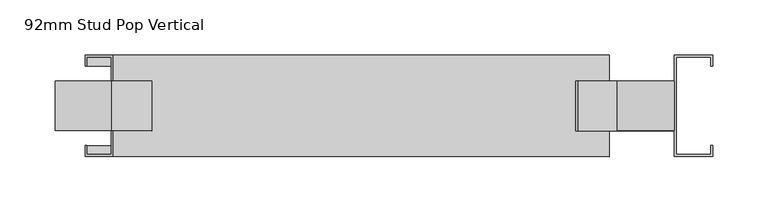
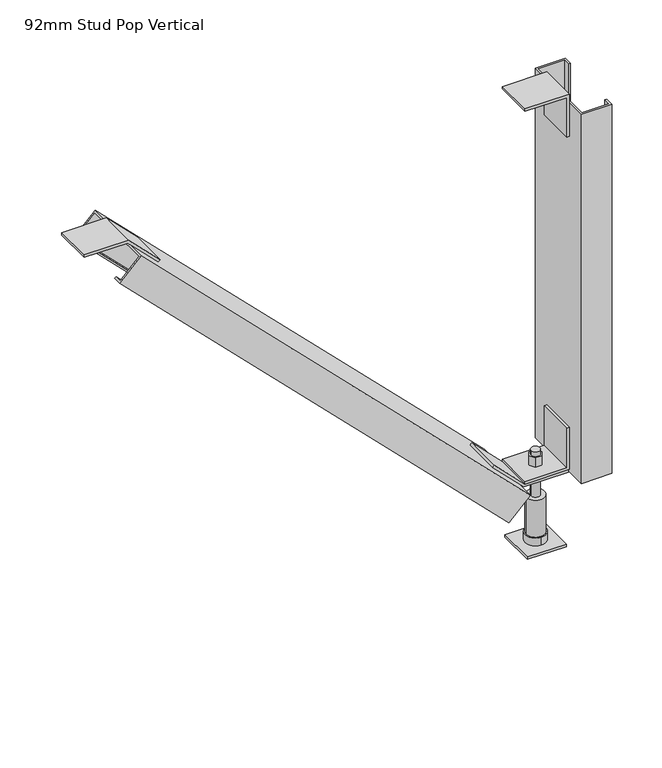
"""IFC4 building model written with IfcOpenShell, lengths in millimetres: beam geometry, Vertibrace Standard Brace : 92mm Stud Pop Vertical."""

from ifc_helpers import new_model, si_unit, frame, origin, origin_with_axes, place, context, project, spatial, polyline, circle_curve, outline, extrude, faceted_brep, source, transform, mapped, element, save
from ifc_brep_helpers import plane_surface, cylinder_surface, advanced_brep


def beam_92mm_stud_pop_vertical_78648807(model_context):
    return source(origin(), model_context, "Body", "SolidModel", [
        extrude(outline(polyline([(547.0013294, 23.235654), (498.7734408, 23.235654), (498.7734408, 26.2343246), (550.0, 26.2343246), (550.0, -24.9922346), (547.0013294, -24.9922346), (547.0013294, 23.235654)])), frame((0.0, -22.5, 0.0), z_axis=(0.0, 1.0, 0.0), x_axis=(0.0, 0.0, 1.0)), (0.0, 0.0, 1.0), 45.0),
        extrude(outline(polyline([(547.0013294, -483.535654), (511.6569723, -448.1912969), (513.7773526, -446.0709166), (550.0, -482.293564), (550.0, -533.5201232), (547.0013294, -533.5201232), (547.0013294, -483.535654)])), frame((0.0, -22.5, 0.0), z_axis=(0.0, 1.0, 0.0), x_axis=(0.0, 0.0, 1.0)), (0.0, 0.0, 1.0), 45.0),
        extrude(outline(polyline([(95.6986706, 23.235654), (95.6986706, -24.9922346), (92.7, -24.9922346), (92.7, 26.2343246), (143.9265592, 26.2343246), (143.9265592, 23.235654), (95.6986706, 23.235654)])), frame((0.0, -22.5, 0.0), z_axis=(0.0, 1.0, 0.0), x_axis=(0.0, 0.0, 1.0)), (0.0, 0.0, 1.0), 45.0),
        extrude(outline(polyline([(92.6986706, -24.9922346), (128.0430277, -60.3365917), (125.9226474, -62.456972), (89.7, -26.2343246), (89.7, 24.9922346), (92.6986706, 24.9922346), (92.6986706, -24.9922346)])), frame((0.0, -22.5, 0.0), z_axis=(0.0, 1.0, 0.0), x_axis=(0.0, 0.0, 1.0)), (0.0, 0.0, 1.0), 45.0),
        extrude(outline(polyline([(22.5, 22.5), (22.5, -22.5), (-22.5, -22.5), (-22.5, 22.5), (22.5, 22.5)])), origin_with_axes(), (0.0, 0.0, 1.0), 3.0),
        advanced_brep(
        [(-5.0, 0.0, 0.0), (5.0, 0.0, 0.0), (-5.0, 0.0, 113.0), (5.0, 0.0, 113.0), (5.0, 0.0, 3.0), (-5.0, 0.0, 3.0), (-5.0, 0.0, 107.4), (5.0, 0.0, 107.4), (-5.0, 0.0, 58.0), (5.0, 0.0, 58.0), (5.0, 0.0, 83.0), (-5.0, 0.0, 83.0), (5.0, 0.0, 95.7), (-5.0, 0.0, 95.7), (-5.0, 0.0, 89.7), (5.0, 0.0, 89.7), (-10.5, 0.0, 58.0), (10.5, 0.0, 58.0), (-10.5, 0.0, 13.0), (10.5, 0.0, 13.0), (0.0, -12.0, 13.0), (0.0, 12.0, 13.0), (3.75, 6.4951905, 107.4), (-3.75, 6.4951905, 107.4), (-7.5, 0.0, 107.4), (-3.75, -6.4951905, 107.4), (3.75, -6.4951905, 107.4), (7.5, 0.0, 107.4), (3.75, 6.4951905, 95.7), (7.5, 0.0, 95.7), (3.75, -6.4951905, 95.7), (-3.75, -6.4951905, 95.7), (-7.5, 0.0, 95.7), (-3.75, 6.4951905, 95.7), (-10.9696551, 0.0, 89.7), (-5.4848276, -9.5, 89.7), (5.4848276, -9.5, 89.7), (10.9696551, 0.0, 89.7), (5.4848276, 9.5, 89.7), (-5.4848276, 9.5, 89.7), (-10.9696551, 0.0, 83.0), (-5.4848276, 9.5, 83.0), (5.4848276, 9.5, 83.0), (10.9696551, 0.0, 83.0), (5.4848276, -9.5, 83.0), (-5.4848276, -9.5, 83.0), (0.0, -12.0, 3.0), (0.0, 12.0, 3.0)],
        [
            (0, 1, circle_curve(frame((0.0, 0.0, 0.0), z_axis=(0.0, 0.0, -1.0), x_axis=(1.0, 0.0, 0.0)), 5.0)),
            (1, 0, circle_curve(frame((0.0, 0.0, 0.0), z_axis=(0.0, 0.0, -1.0), x_axis=(1.0, 0.0, 0.0)), 5.0)),
            (2, 3, circle_curve(frame((0.0, 0.0, 113.0), z_axis=(0.0, 0.0, 1.0), x_axis=(1.0, 0.0, 0.0)), 5.0)),
            (3, 2, circle_curve(frame((0.0, 0.0, 113.0), z_axis=(0.0, 0.0, 1.0), x_axis=(1.0, 0.0, 0.0)), 5.0)),
            (1, 4),
            (4, 5, circle_curve(frame((0.0, 0.0, 3.0), z_axis=(0.0, 0.0, -1.0), x_axis=(1.0, 0.0, 0.0)), 5.0)),
            (5, 0),
            (2, 6),
            (6, 7, circle_curve(frame((0.0, 0.0, 107.4), z_axis=(0.0, 0.0, 1.0), x_axis=(1.0, 0.0, 0.0)), 5.0)),
            (7, 3),
            (8, 9, circle_curve(frame((0.0, 0.0, 58.0), z_axis=(0.0, 0.0, 1.0), x_axis=(1.0, 0.0, 0.0)), 5.0)),
            (9, 10),
            (10, 11, circle_curve(frame((0.0, 0.0, 83.0), z_axis=(0.0, 0.0, -1.0), x_axis=(1.0, 0.0, 0.0)), 5.0)),
            (11, 8),
            (12, 13, circle_curve(frame((0.0, 0.0, 95.7), z_axis=(0.0, 0.0, -1.0), x_axis=(1.0, 0.0, 0.0)), 5.0)),
            (13, 14),
            (14, 15, circle_curve(frame((0.0, 0.0, 89.7), z_axis=(0.0, 0.0, 1.0), x_axis=(1.0, 0.0, 0.0)), 5.0)),
            (15, 12),
            (5, 4, circle_curve(frame((0.0, 0.0, 3.0), z_axis=(0.0, 0.0, -1.0), x_axis=(1.0, 0.0, 0.0)), 5.0)),
            (7, 6, circle_curve(frame((0.0, 0.0, 107.4), z_axis=(0.0, 0.0, 1.0), x_axis=(1.0, 0.0, 0.0)), 5.0)),
            (9, 8, circle_curve(frame((0.0, 0.0, 58.0), z_axis=(0.0, 0.0, 1.0), x_axis=(1.0, 0.0, 0.0)), 5.0)),
            (11, 10, circle_curve(frame((0.0, 0.0, 83.0), z_axis=(0.0, 0.0, -1.0), x_axis=(1.0, 0.0, 0.0)), 5.0)),
            (13, 12, circle_curve(frame((0.0, 0.0, 95.7), z_axis=(0.0, 0.0, -1.0), x_axis=(1.0, 0.0, 0.0)), 5.0)),
            (15, 14, circle_curve(frame((0.0, 0.0, 89.7), z_axis=(0.0, 0.0, 1.0), x_axis=(1.0, 0.0, 0.0)), 5.0)),
            (16, 17, circle_curve(frame((0.0, 0.0, 58.0), z_axis=(0.0, 0.0, 1.0), x_axis=(1.0, 0.0, 0.0)), 10.5)),
            (17, 16, circle_curve(frame((0.0, 0.0, 58.0), z_axis=(0.0, 0.0, 1.0), x_axis=(1.0, 0.0, 0.0)), 10.5)),
            (16, 18),
            (18, 19, circle_curve(frame((0.0, 0.0, 13.0), z_axis=(0.0, 0.0, 1.0), x_axis=(1.0, 0.0, 0.0)), 10.5)),
            (19, 17),
            (19, 18, circle_curve(frame((0.0, 0.0, 13.0), z_axis=(0.0, 0.0, 1.0), x_axis=(1.0, 0.0, 0.0)), 10.5)),
            (20, 21, circle_curve(frame((0.0, 0.0, 13.0), z_axis=(0.0, 0.0, 1.0), x_axis=(0.0, 1.0, 0.0)), 12.0)),
            (21, 20, circle_curve(frame((0.0, 0.0, 13.0), z_axis=(0.0, 0.0, 1.0), x_axis=(0.0, 1.0, 0.0)), 12.0)),
            (22, 23),
            (23, 24),
            (24, 25),
            (25, 26),
            (26, 27),
            (27, 22),
            (28, 29),
            (29, 30),
            (30, 31),
            (31, 32),
            (32, 33),
            (33, 28),
            (22, 28),
            (33, 23),
            (32, 24),
            (31, 25),
            (30, 26),
            (29, 27),
            (34, 35),
            (35, 36),
            (36, 37),
            (37, 38),
            (38, 39),
            (39, 34),
            (40, 41),
            (41, 42),
            (42, 43),
            (43, 44),
            (44, 45),
            (45, 40),
            (34, 40),
            (45, 35),
            (44, 36),
            (43, 37),
            (42, 38),
            (41, 39),
            (46, 47, circle_curve(frame((0.0, 0.0, 3.0), z_axis=(0.0, 0.0, -1.0), x_axis=(0.0, 1.0, 0.0)), 12.0)),
            (47, 46, circle_curve(frame((0.0, 0.0, 3.0), z_axis=(0.0, 0.0, -1.0), x_axis=(0.0, 1.0, 0.0)), 12.0)),
            (47, 21),
            (20, 46),
        ],
        [
            plane_surface(frame((5.0, 0.0, 0.0), z_axis=(0.0, 0.0, -1.0), x_axis=(0.0, -1.0, 0.0))),
            plane_surface(frame((5.0, 0.0, 113.0), z_axis=(0.0, 0.0, 1.0), x_axis=(0.0, 1.0, 0.0))),
            cylinder_surface(origin_with_axes(), 5.0),
            plane_surface(frame((10.5, 0.0, 58.0), z_axis=(0.0, 0.0, 1.0), x_axis=(0.0, 1.0, 0.0))),
            cylinder_surface(frame((0.0, 0.0, 13.0), z_axis=(0.0, 0.0, 1.0), x_axis=(1.0, 0.0, 0.0)), 10.5),
            plane_surface(frame((0.0, 12.0, 13.0), z_axis=(0.0, 0.0, 1.0), x_axis=(-1.0, 0.0, 0.0))),
            plane_surface(frame((3.75, 6.4951905, 107.4), z_axis=(0.0, 0.0, 1.0), x_axis=(-1.0, 0.0, 0.0))),
            plane_surface(frame((3.75, 6.4951905, 95.7), z_axis=(0.0, 0.0, -1.0), x_axis=(1.0, 0.0, 0.0))),
            plane_surface(frame((3.75, 6.4951905, 107.4), z_axis=(0.0, 1.0, 0.0), x_axis=(0.0, 0.0, -1.0))),
            plane_surface(frame((-3.75, 6.4951905, 107.4), z_axis=(-0.866025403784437, 0.5000000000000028, 0.0), x_axis=(0.0, 0.0, -1.0))),
            plane_surface(frame((-7.5, 0.0, 107.4), z_axis=(-0.8660254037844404, -0.4999999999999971, 0.0), x_axis=(0.0, 0.0, -1.0))),
            plane_surface(frame((-3.75, -6.4951905, 107.4), z_axis=(0.0, -1.0, 0.0), x_axis=(0.0, 0.0, -1.0))),
            plane_surface(frame((3.75, -6.4951905, 107.4), z_axis=(0.8660254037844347, -0.500000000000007, 0.0), x_axis=(0.0, 0.0, -1.0))),
            plane_surface(frame((7.5, 0.0, 107.4), z_axis=(0.8660254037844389, 0.49999999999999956, 0.0), x_axis=(0.0, 0.0, -1.0))),
            plane_surface(frame((-10.9696551, 0.0, 89.7), z_axis=(0.0, 0.0, 1.0000000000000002), x_axis=(0.4999999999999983, -0.8660254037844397, 0.0))),
            plane_surface(frame((-10.9696551, 0.0, 83.0), z_axis=(0.0, 0.0, -1.0000000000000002), x_axis=(-0.4999999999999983, 0.8660254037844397, 0.0))),
            plane_surface(frame((-10.9696551, 0.0, 89.7), z_axis=(-0.8660254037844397, -0.4999999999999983, 0.0), x_axis=(0.0, 0.0, -1.0))),
            plane_surface(frame((-5.4848276, -9.5, 89.7), z_axis=(0.0, -1.0, 0.0), x_axis=(0.0, 0.0, -1.0))),
            plane_surface(frame((5.4848276, -9.5, 89.7), z_axis=(0.8660254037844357, -0.5000000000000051, 0.0), x_axis=(0.0, 0.0, -1.0))),
            plane_surface(frame((10.9696551, 0.0, 89.7), z_axis=(0.8660254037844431, 0.4999999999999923, 0.0), x_axis=(0.0, 0.0, -1.0))),
            plane_surface(frame((5.4848276, 9.5, 89.7), z_axis=(0.0, 1.0, 0.0), x_axis=(0.0, 0.0, -1.0))),
            plane_surface(frame((-5.4848276, 9.5, 89.7), z_axis=(-0.8660254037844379, 0.5000000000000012, 0.0), x_axis=(0.0, 0.0, -1.0))),
            plane_surface(frame((0.0, 12.0, 3.0), z_axis=(0.0, 0.0, -1.0), x_axis=(1.0, 0.0, 0.0))),
            cylinder_surface(frame((0.0, 0.0, 3.0), z_axis=(0.0, 0.0, 1.0), x_axis=(0.0, 1.0, 0.0)), 12.0),
        ],
        [
            (0, [[1, 2]]),
            (1, [[3, 4]]),
            (2, [[-2, 5, 6, 7]]),
            (2, [[-3, 8, 9, 10]]),
            (2, [[11, 12, 13, 14]]),
            (2, [[15, 16, 17, 18]]),
            (2, [[-1, -7, 19, -5]]),
            (2, [[-4, -10, 20, -8]]),
            (2, [[21, -14, 22, -12]]),
            (2, [[23, -18, 24, -16]]),
            (3, [[25, 26], [-11, -21]]),
            (4, [[-25, 27, 28, 29]]),
            (4, [[-26, -29, 30, -27]]),
            (5, [[31, 32], [-28, -30]]),
            (6, [[33, 34, 35, 36, 37, 38], [-9, -20]]),
            (7, [[39, 40, 41, 42, 43, 44], [-15, -23]]),
            (8, [[-33, 45, -44, 46]]),
            (9, [[-34, -46, -43, 47]]),
            (10, [[-35, -47, -42, 48]]),
            (11, [[-36, -48, -41, 49]]),
            (12, [[-37, -49, -40, 50]]),
            (13, [[-38, -50, -39, -45]]),
            (14, [[51, 52, 53, 54, 55, 56], [-17, -24]]),
            (15, [[57, 58, 59, 60, 61, 62], [-13, -22]]),
            (16, [[-51, 63, -62, 64]]),
            (17, [[-52, -64, -61, 65]]),
            (18, [[-53, -65, -60, 66]]),
            (19, [[-54, -66, -59, 67]]),
            (20, [[-55, -67, -58, 68]]),
            (21, [[-56, -68, -57, -63]]),
            (22, [[69, 70], [-6, -19]]),
            (23, [[-70, 71, -31, 72]]),
            (23, [[-69, -72, -32, -71]]),
        ],
    ),
        extrude(outline(polyline([(26.2343246, 46.0), (61.2343246, 46.0), (61.2343246, 36.0), (59.2343246, 36.0), (59.2343246, 44.0), (28.2343246, 44.0), (28.2343246, -44.0), (59.2343246, -44.0), (59.2343246, -36.0), (61.2343246, -36.0), (61.2343246, -46.0), (26.2343246, -46.0), (26.2343246, 46.0)])), frame((0.0, 0.0, 89.7), z_axis=(0.0, 0.0, 1.0), x_axis=(1.0, 0.0, 0.0)), (0.0, 0.0, 1.0), 450.3),
        faceted_brep([(-32.5343246, -46.0, 96.0), (-57.283062, -46.0, 71.2512627), (-57.283062, -45.0, 71.2512627), (-43.5343246, -45.0, 85.0), (-43.5343246, -44.0, 85.0), (-33.9485382, -44.0, 94.5857864), (-33.9485382, 44.0, 94.5857864), (-43.5343246, 44.0, 85.0), (-43.5343246, 46.0, 85.0), (-32.5343246, 46.0, 96.0), (-481.4883773, -46.0, 544.9540527), (-481.4883773, 46.0, 544.9540527), (-506.2371147, 46.0, 520.2053154), (-506.2371147, 36.0, 520.2053154), (-504.8229011, 36.0, 521.6195289), (-504.8229011, 44.0, 521.6195289), (-482.9025909, 44.0, 543.5398392), (-482.9025909, -44.0, 543.5398392), (-504.8229011, -44.0, 521.6195289), (-504.8229011, -36.0, 521.6195289), (-506.2371147, -36.0, 520.2053154), (-506.2371147, -46.0, 520.2053154), (-71.0317993, -36.0, 85.0), (-71.0317993, -45.0, 85.0), (-71.0317993, 46.0, 85.0), (-68.2033722, 44.0, 85.0), (-68.2033722, 36.0, 85.0), (-71.0317993, 36.0, 85.0), (-68.2033722, -36.0, 85.0), (-68.2033722, -44.0, 85.0)], [[[0, 1, 2, 3, 4, 5, 6, 7, 8, 9]], [[10, 11, 12, 13, 14, 15, 16, 17, 18, 19, 20, 21]], [[1, 0, 10, 21]], [[21, 20, 22, 23, 2, 1]], [[12, 11, 9, 8, 24]], [[0, 9, 11, 10]], [[8, 7, 25, 26, 27, 24]], [[3, 23, 22, 28, 29, 4]], [[20, 19, 28, 22]], [[19, 18, 29, 28]], [[18, 17, 5, 4, 29]], [[6, 5, 17, 16]], [[16, 15, 25, 7, 6]], [[15, 14, 26, 25]], [[14, 13, 27, 26]], [[13, 12, 24, 27]], [[23, 3, 2]]]),
    ])


if __name__ == "__main__":
    model = new_model("IFC4")
    model_context = context("Model", 3, world=origin())
    ifc_project = project(units=[si_unit("LENGTHUNIT", "METRE", prefix="MILLI")], contexts=[model_context])
    site = spatial("IfcSite", under=ifc_project)
    building = spatial("IfcBuilding", under=site)
    placement = place(None, origin())
    beam_92mm_stud_pop_vertical_shape = beam_92mm_stud_pop_vertical_78648807(model_context)
    element("IfcBeam", 1, ObjectType="Vertibrace Standard Brace : 92mm Stud Pop Vertical", at=placement, inside=building, context=model_context, shape_type="MappedRepresentation", body=[
        mapped(beam_92mm_stud_pop_vertical_shape, transform((0.0, 0.0, 0.0), x_axis=(1.0, 0.0, 0.0), y_axis=(0.0, 1.0, 0.0), z_axis=(0.0, 0.0, 1.0))),
    ])
    save(model, "model.ifc")
